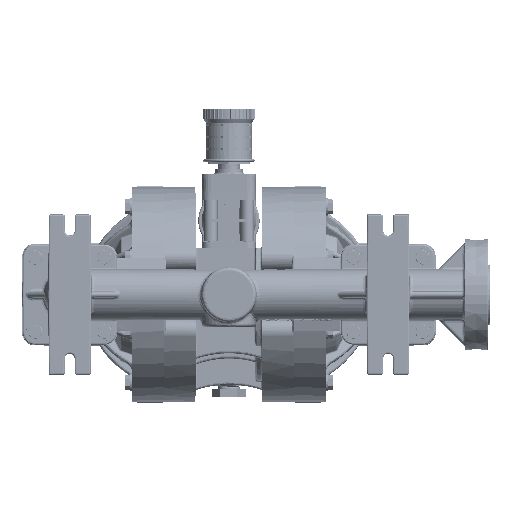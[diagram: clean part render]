
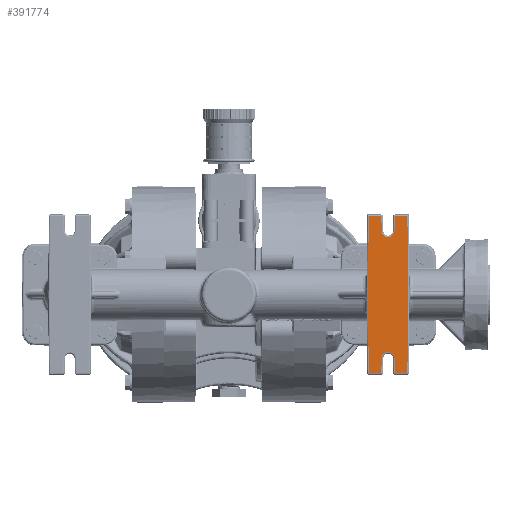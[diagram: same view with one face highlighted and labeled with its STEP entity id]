
A CAD part, front view. The second image highlights one B-rep face of the part: STEP entity #391774.
In plain terms, the highlighted planar face has unit normal (0, -1, 0).
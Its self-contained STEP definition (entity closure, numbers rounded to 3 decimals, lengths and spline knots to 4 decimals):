
#13355 = DIRECTION ( 'NONE',  ( -0.009, 0., 1. ) ) ;
#16945 = ORIENTED_EDGE ( 'NONE', *, *, #247918, .T. ) ;
#25550 = EDGE_CURVE ( 'NONE', #378434, #65981, #183040, .T. ) ;
#30142 = EDGE_CURVE ( 'NONE', #204292, #388858, #33101, .T. ) ;
#31801 = CARTESIAN_POINT ( 'NONE',  ( 6.3705, -9.579, 2.4597 ) ) ;
#33101 = LINE ( 'NONE', #176082, #102525 ) ;
#34947 = DIRECTION ( 'NONE',  ( 1., 0., 0. ) ) ;
#35825 = VERTEX_POINT ( 'NONE', #406390 ) ;
#37250 = CARTESIAN_POINT ( 'NONE',  ( 6.3754, -9.579, -3.02 ) ) ;
#37377 = ORIENTED_EDGE ( 'NONE', *, *, #83373, .T. ) ;
#38257 = DIRECTION ( 'NONE',  ( 0.009, 0., -1. ) ) ;
#39144 = CARTESIAN_POINT ( 'NONE',  ( 5.3769, -9.579, 3.02 ) ) ;
#44254 = ORIENTED_EDGE ( 'NONE', *, *, #274697, .T. ) ;
#53521 = VECTOR ( 'NONE', #108048, 39.3701 ) ;
#54998 = CARTESIAN_POINT ( 'NONE',  ( 0., -9.579, 0. ) ) ;
#65981 = VERTEX_POINT ( 'NONE', #331273 ) ;
#67283 = DIRECTION ( 'NONE',  ( -0.009, 0., -1. ) ) ;
#70414 = LINE ( 'NONE', #104991, #90414 ) ;
#72324 = DIRECTION ( 'NONE',  ( 1., 0., 0. ) ) ;
#72490 = DIRECTION ( 'NONE',  ( 0.009, 0., 1. ) ) ;
#73971 = CARTESIAN_POINT ( 'NONE',  ( 6.8641, -9.579, -3.02 ) ) ;
#75684 = CARTESIAN_POINT ( 'NONE',  ( 6.1205, -9.579, -2.46 ) ) ;
#77750 = VERTEX_POINT ( 'NONE', #203677 ) ;
#83373 = EDGE_CURVE ( 'NONE', #431283, #116075, #307449, .T. ) ;
#89621 = PLANE ( 'NONE',  #307549 ) ;
#90414 = VECTOR ( 'NONE', #358475, 39.3701 ) ;
#100007 = EDGE_CURVE ( 'NONE', #238569, #378434, #70414, .T. ) ;
#101683 = CARTESIAN_POINT ( 'NONE',  ( 6.8641, -9.579, 3.02 ) ) ;
#102525 = VECTOR ( 'NONE', #72324, 39.3701 ) ;
#103436 = DIRECTION ( 'NONE',  ( -1., 0., 0.001 ) ) ;
#104991 = CARTESIAN_POINT ( 'NONE',  ( 6.3754, -9.579, 3.02 ) ) ;
#108048 = DIRECTION ( 'NONE',  ( -0.009, 0., 1. ) ) ;
#112901 = ORIENTED_EDGE ( 'NONE', *, *, #30142, .T. ) ;
#113051 = CARTESIAN_POINT ( 'NONE',  ( 6.3754, -9.579, -3.02 ) ) ;
#113208 = LINE ( 'NONE', #253897, #203722 ) ;
#113761 = EDGE_CURVE ( 'NONE', #77750, #340041, #296992, .T. ) ;
#114923 = VERTEX_POINT ( 'NONE', #113051 ) ;
#115580 = DIRECTION ( 'NONE',  ( 0., 1., 0. ) ) ;
#116075 = VERTEX_POINT ( 'NONE', #323526 ) ;
#133440 = CARTESIAN_POINT ( 'NONE',  ( 5.3505, -9.579, 0. ) ) ;
#142640 = LINE ( 'NONE', #380193, #53521 ) ;
#146602 = ORIENTED_EDGE ( 'NONE', *, *, #100007, .T. ) ;
#161689 = EDGE_CURVE ( 'NONE', #65981, #35825, #142640, .T. ) ;
#165558 = ORIENTED_EDGE ( 'NONE', *, *, #420357, .T. ) ;
#170758 = ORIENTED_EDGE ( 'NONE', *, *, #246299, .T. ) ;
#176082 = CARTESIAN_POINT ( 'NONE',  ( 5.3769, -9.579, -3.02 ) ) ;
#181721 = DIRECTION ( 'NONE',  ( -1., 0., 0. ) ) ;
#182461 = CARTESIAN_POINT ( 'NONE',  ( 6.1205, -9.579, 2.46 ) ) ;
#183040 = CIRCLE ( 'NONE', #344981, 0.25 ) ;
#186268 = LINE ( 'NONE', #426085, #236860 ) ;
#187046 = DIRECTION ( 'NONE',  ( 1., 0., -0.001 ) ) ;
#187297 = CARTESIAN_POINT ( 'NONE',  ( 5.8705, -9.579, -2.4597 ) ) ;
#190264 = CARTESIAN_POINT ( 'NONE',  ( 6.3754, -9.579, 3.02 ) ) ;
#194740 = DIRECTION ( 'NONE',  ( -1., 0., 0. ) ) ;
#203677 = CARTESIAN_POINT ( 'NONE',  ( 6.8905, -9.579, 0. ) ) ;
#203722 = VECTOR ( 'NONE', #67283, 39.3701 ) ;
#204292 = VERTEX_POINT ( 'NONE', #408340 ) ;
#204640 = ORIENTED_EDGE ( 'NONE', *, *, #316920, .T. ) ;
#207584 = EDGE_LOOP ( 'NONE', ( #112901, #204640, #37377, #237531, #44254, #16945, #447946, #392213, #146602, #268387, #353134, #239310, #170758, #165558 ) ) ;
#214605 = DIRECTION ( 'NONE',  ( 0.009, 0., 1. ) ) ;
#216324 = DIRECTION ( 'NONE',  ( 0., 1., 0. ) ) ;
#219243 = AXIS2_PLACEMENT_3D ( 'NONE', #75684, #216324, #103436 ) ;
#229595 = VECTOR ( 'NONE', #34947, 39.3701 ) ;
#231617 = LINE ( 'NONE', #101683, #292515 ) ;
#236860 = VECTOR ( 'NONE', #181721, 39.3701 ) ;
#237531 = ORIENTED_EDGE ( 'NONE', *, *, #455206, .T. ) ;
#238569 = VERTEX_POINT ( 'NONE', #190264 ) ;
#239310 = ORIENTED_EDGE ( 'NONE', *, *, #317150, .T. ) ;
#246299 = EDGE_CURVE ( 'NONE', #309235, #276674, #113208, .T. ) ;
#247918 = EDGE_CURVE ( 'NONE', #362039, #77750, #282323, .T. ) ;
#253897 = CARTESIAN_POINT ( 'NONE',  ( 5.3769, -9.579, 3.02 ) ) ;
#259861 = EDGE_CURVE ( 'NONE', #340041, #238569, #231617, .T. ) ;
#268387 = ORIENTED_EDGE ( 'NONE', *, *, #25550, .T. ) ;
#273935 = DIRECTION ( 'NONE',  ( 1., 0., 0. ) ) ;
#274697 = EDGE_CURVE ( 'NONE', #114923, #362039, #274932, .T. ) ;
#274932 = LINE ( 'NONE', #37250, #229595 ) ;
#276674 = VERTEX_POINT ( 'NONE', #133440 ) ;
#280651 = VECTOR ( 'NONE', #38257, 39.3701 ) ;
#282323 = LINE ( 'NONE', #422902, #336651 ) ;
#292515 = VECTOR ( 'NONE', #194740, 39.3701 ) ;
#294745 = CARTESIAN_POINT ( 'NONE',  ( 6.8905, -9.579, 0. ) ) ;
#296992 = LINE ( 'NONE', #294745, #456391 ) ;
#307449 = CIRCLE ( 'NONE', #219243, 0.25 ) ;
#307549 = AXIS2_PLACEMENT_3D ( 'NONE', #54998, #440015, #273935 ) ;
#308301 = VECTOR ( 'NONE', #393057, 39.3701 ) ;
#309235 = VERTEX_POINT ( 'NONE', #39144 ) ;
#316920 = EDGE_CURVE ( 'NONE', #388858, #431283, #415313, .T. ) ;
#317150 = EDGE_CURVE ( 'NONE', #35825, #309235, #186268, .T. ) ;
#323526 = CARTESIAN_POINT ( 'NONE',  ( 6.3705, -9.579, -2.4597 ) ) ;
#323941 = CARTESIAN_POINT ( 'NONE',  ( 5.3505, -9.579, 0. ) ) ;
#331273 = CARTESIAN_POINT ( 'NONE',  ( 5.8705, -9.579, 2.4597 ) ) ;
#336651 = VECTOR ( 'NONE', #72490, 39.3701 ) ;
#340041 = VERTEX_POINT ( 'NONE', #449086 ) ;
#340840 = FACE_OUTER_BOUND ( 'NONE', #207584, .T. ) ;
#344981 = AXIS2_PLACEMENT_3D ( 'NONE', #182461, #115580, #187046 ) ;
#346143 = CARTESIAN_POINT ( 'NONE',  ( 5.8656, -9.579, -3.02 ) ) ;
#347354 = LINE ( 'NONE', #349608, #280651 ) ;
#349608 = CARTESIAN_POINT ( 'NONE',  ( 6.3705, -9.579, -2.4597 ) ) ;
#353134 = ORIENTED_EDGE ( 'NONE', *, *, #161689, .T. ) ;
#358475 = DIRECTION ( 'NONE',  ( -0.009, 0., -1. ) ) ;
#362039 = VERTEX_POINT ( 'NONE', #73971 ) ;
#378434 = VERTEX_POINT ( 'NONE', #31801 ) ;
#380193 = CARTESIAN_POINT ( 'NONE',  ( 5.8705, -9.579, 2.4597 ) ) ;
#388858 = VERTEX_POINT ( 'NONE', #421580 ) ;
#391774 = ADVANCED_FACE ( 'NONE', ( #340840 ), #89621, .F. ) ;
#392213 = ORIENTED_EDGE ( 'NONE', *, *, #259861, .T. ) ;
#393057 = DIRECTION ( 'NONE',  ( 0.009, 0., -1. ) ) ;
#405987 = VECTOR ( 'NONE', #214605, 39.3701 ) ;
#406390 = CARTESIAN_POINT ( 'NONE',  ( 5.8656, -9.579, 3.02 ) ) ;
#408340 = CARTESIAN_POINT ( 'NONE',  ( 5.3769, -9.579, -3.02 ) ) ;
#415313 = LINE ( 'NONE', #346143, #405987 ) ;
#420357 = EDGE_CURVE ( 'NONE', #276674, #204292, #427647, .T. ) ;
#421580 = CARTESIAN_POINT ( 'NONE',  ( 5.8656, -9.579, -3.02 ) ) ;
#422902 = CARTESIAN_POINT ( 'NONE',  ( 6.8641, -9.579, -3.02 ) ) ;
#426085 = CARTESIAN_POINT ( 'NONE',  ( 5.8656, -9.579, 3.02 ) ) ;
#427647 = LINE ( 'NONE', #323941, #308301 ) ;
#431283 = VERTEX_POINT ( 'NONE', #187297 ) ;
#440015 = DIRECTION ( 'NONE',  ( 0., 1., 0. ) ) ;
#447946 = ORIENTED_EDGE ( 'NONE', *, *, #113761, .T. ) ;
#449086 = CARTESIAN_POINT ( 'NONE',  ( 6.8641, -9.579, 3.02 ) ) ;
#455206 = EDGE_CURVE ( 'NONE', #116075, #114923, #347354, .T. ) ;
#456391 = VECTOR ( 'NONE', #13355, 39.3701 ) ;
